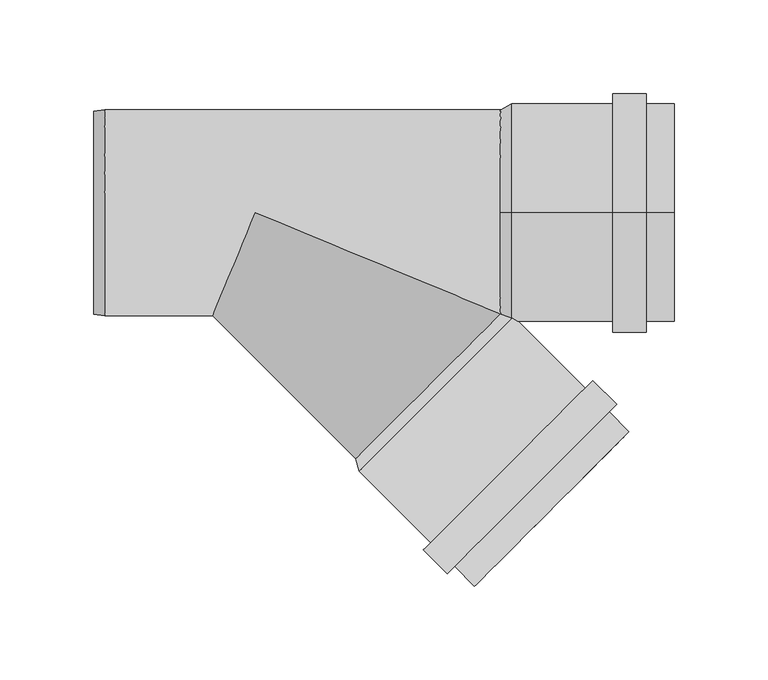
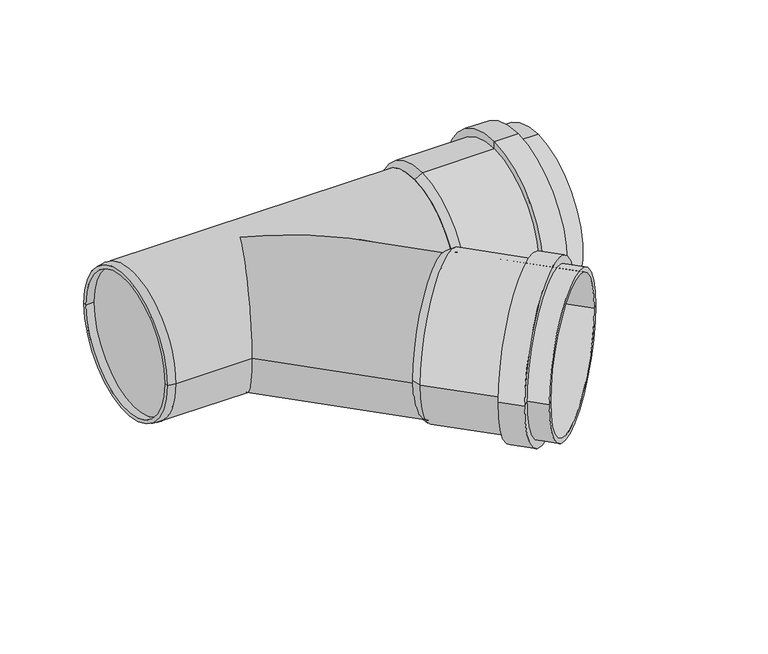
"""IFC4 building model written with IfcOpenShell, lengths in millimetres: pipe fitting geometry, OSMA_KG2000_PPKGEA : Odbočka 45°."""

from ifc_helpers import new_model, si_unit, frame, origin, place, context, project, spatial, polyline, circle_curve, ellipse_curve, source, transform, mapped, element, save
from ifc_brep_helpers import plane_surface, cylinder_surface, revolved_surface, advanced_brep


def pipe_fitting_f183f3e4(model_context):
    return source(origin(), model_context, "Body", "AdvancedBrep", [
        advanced_brep(
        [(135.764502, -57.9827561, 1.6299565), (57.9827561, -135.764502, 1.6299565), (119.501046, -197.282792, 1.6299565), (197.282792, -119.501046, 1.6299565), (176.3524312, -93.7623592, 1.6299565), (93.7623592, -176.3524312, 1.6299565), (55.578593, -138.168665, 1.6299565), (138.168665, -55.578593, 1.6299565), (180.3122292, -89.8025612, 1.6299565), (89.8025612, -180.3122292, 1.6299565), (193.0401513, -102.5304833, 1.6299565), (102.5304833, -193.0401513, 1.6299565), (189.0803533, -106.4902812, 1.6299565), (106.4902812, -189.0803533, 1.6299565), (199.686955, -117.096883, 1.6299565), (117.096883, -199.686955, 1.6299565), (129.1176982, -56.1442784, 1.6299565), (56.1442784, -129.1176982, 1.6299565), (131.5218613, -53.7401154, 1.6299565), (53.7401154, -131.5218613, 1.6299565)],
        [
            (0, 1, circle_curve(frame((96.873629, -96.873629, 1.6299565), z_axis=(-0.7071067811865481, 0.7071067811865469, 0.0), x_axis=(-0.7071067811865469, -0.7071067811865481, 0.0)), 55.0)),
            (1, 2),
            (2, 3, circle_curve(frame((158.391919, -158.391919, 1.6299565), z_axis=(0.7071067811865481, -0.7071067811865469, 0.0), x_axis=(-0.7071067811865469, -0.7071067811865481, 0.0)), 55.0)),
            (3, 0),
            (1, 0, circle_curve(frame((96.873629, -96.873629, 1.6299565), z_axis=(-0.7071067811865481, 0.7071067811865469, 0.0), x_axis=(-0.7071067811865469, -0.7071067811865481, 0.0)), 55.0)),
            (3, 2, circle_curve(frame((158.391919, -158.391919, 1.6299565), z_axis=(0.7071067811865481, -0.7071067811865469, 0.0), x_axis=(-0.7071067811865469, -0.7071067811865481, 0.0)), 55.0)),
            (4, 5, circle_curve(frame((135.0573952, -135.0573952, 1.6299565), z_axis=(-0.7071067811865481, 0.7071067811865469, 0.0), x_axis=(-0.7071067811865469, -0.7071067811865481, 0.0)), 58.4)),
            (5, 6),
            (6, 7, circle_curve(frame((96.873629, -96.873629, 1.6299565), z_axis=(0.7071067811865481, -0.7071067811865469, 0.0), x_axis=(-0.7071067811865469, -0.7071067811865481, 0.0)), 58.4)),
            (7, 4),
            (5, 4, circle_curve(frame((135.0573952, -135.0573952, 1.6299565), z_axis=(-0.7071067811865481, 0.7071067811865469, 0.0), x_axis=(-0.7071067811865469, -0.7071067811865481, 0.0)), 58.4)),
            (7, 6, circle_curve(frame((96.873629, -96.873629, 1.6299565), z_axis=(0.7071067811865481, -0.7071067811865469, 0.0), x_axis=(-0.7071067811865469, -0.7071067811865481, 0.0)), 58.4)),
            (8, 9, circle_curve(frame((135.0573952, -135.0573952, 1.6299565), z_axis=(-0.7071067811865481, 0.7071067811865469, 0.0), x_axis=(-0.7071067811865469, -0.7071067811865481, 0.0)), 64.0)),
            (9, 5),
            (4, 8),
            (9, 8, circle_curve(frame((135.0573952, -135.0573952, 1.6299565), z_axis=(-0.7071067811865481, 0.7071067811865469, 0.0), x_axis=(-0.7071067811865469, -0.7071067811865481, 0.0)), 64.0)),
            (10, 11, circle_curve(frame((147.7853173, -147.7853173, 1.6299565), z_axis=(-0.7071067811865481, 0.7071067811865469, 0.0), x_axis=(-0.7071067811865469, -0.7071067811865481, 0.0)), 64.0)),
            (11, 9),
            (8, 10),
            (11, 10, circle_curve(frame((147.7853173, -147.7853173, 1.6299565), z_axis=(-0.7071067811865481, 0.7071067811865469, 0.0), x_axis=(-0.7071067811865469, -0.7071067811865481, 0.0)), 64.0)),
            (12, 13, circle_curve(frame((147.7853173, -147.7853173, 1.6299565), z_axis=(-0.7071067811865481, 0.7071067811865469, 0.0), x_axis=(-0.7071067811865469, -0.7071067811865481, 0.0)), 58.4)),
            (13, 11),
            (10, 12),
            (13, 12, circle_curve(frame((147.7853173, -147.7853173, 1.6299565), z_axis=(-0.7071067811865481, 0.7071067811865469, 0.0), x_axis=(-0.7071067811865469, -0.7071067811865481, 0.0)), 58.4)),
            (14, 15, circle_curve(frame((158.391919, -158.391919, 1.6299565), z_axis=(-0.7071067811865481, 0.7071067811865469, 0.0), x_axis=(-0.7071067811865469, -0.7071067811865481, 0.0)), 58.4)),
            (15, 13),
            (12, 14),
            (15, 14, circle_curve(frame((158.391919, -158.391919, 1.6299565), z_axis=(-0.7071067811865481, 0.7071067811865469, 0.0), x_axis=(-0.7071067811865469, -0.7071067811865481, 0.0)), 58.4)),
            (2, 15),
            (14, 3),
            (16, 17, circle_curve(frame((92.6309883, -92.6309883, 1.6299565), z_axis=(-0.7071067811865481, 0.7071067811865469, 0.0), x_axis=(-0.7071067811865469, -0.7071067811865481, 0.0)), 51.6)),
            (17, 1),
            (0, 16),
            (17, 16, circle_curve(frame((92.6309883, -92.6309883, 1.6299565), z_axis=(-0.7071067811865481, 0.7071067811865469, 0.0), x_axis=(-0.7071067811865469, -0.7071067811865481, 0.0)), 51.6)),
            (18, 19, circle_curve(frame((92.6309883, -92.6309883, 1.6299565), z_axis=(-0.7071067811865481, 0.7071067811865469, 0.0), x_axis=(-0.7071067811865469, -0.7071067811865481, 0.0)), 55.0)),
            (19, 17),
            (16, 18),
            (19, 18, circle_curve(frame((92.6309883, -92.6309883, 1.6299565), z_axis=(-0.7071067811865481, 0.7071067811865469, 0.0), x_axis=(-0.7071067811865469, -0.7071067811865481, 0.0)), 55.0)),
            (6, 19),
            (18, 7),
        ],
        [
            revolved_surface(polyline([(119.50104603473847, -197.28279196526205, 1.6299565), (57.98275603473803, -135.76450196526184, 1.6299565)]), (2045.995242, -2045.995242, 1.6299565), (0.7071067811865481, -0.7071067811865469, 0.0)),
            cylinder_surface(frame((2045.995242, -2045.995242, 1.6299565), z_axis=(0.7071067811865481, -0.7071067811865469, 0.0), x_axis=(-0.7071067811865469, -0.7071067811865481, 0.0)), 58.4),
            plane_surface(frame((135.0573952, -135.0573952, 1.6299565), z_axis=(-0.7071067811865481, 0.7071067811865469, 0.0), x_axis=(-0.7071067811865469, -0.7071067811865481, 0.0))),
            cylinder_surface(frame((2045.995242, -2045.995242, 1.6299565), z_axis=(0.7071067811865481, -0.7071067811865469, 0.0), x_axis=(-0.7071067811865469, -0.7071067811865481, 0.0)), 64.0),
            plane_surface(frame((147.7853173, -147.7853173, 1.6299565), z_axis=(0.7071067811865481, -0.7071067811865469, 0.0), x_axis=(-0.7071067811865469, -0.7071067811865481, 0.0))),
            plane_surface(frame((158.391919, -158.391919, 1.6299565), z_axis=(0.7071067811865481, -0.7071067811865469, 0.0), x_axis=(-0.7071067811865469, -0.7071067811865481, 0.0))),
            revolved_surface(polyline([(57.9827561, -135.764502, 1.6299565), (56.1442784, -129.1176982, 1.6299565)]), (2045.995242, -2045.995242, 1.6299565), (0.7071067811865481, -0.7071067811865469, 0.0)),
            plane_surface(frame((92.6309883, -92.6309883, 1.6299565), z_axis=(-0.7071067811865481, 0.7071067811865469, 0.0), x_axis=(-0.7071067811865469, -0.7071067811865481, 0.0))),
            revolved_surface(polyline([(53.7401154, -131.5218613, 1.6299565), (55.578593, -138.168665, 1.6299565)]), (2045.995242, -2045.995242, 1.6299565), (0.7071067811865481, -0.7071067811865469, 0.0)),
        ],
        [
            (0, [[1, 2, 3, 4]]),
            (0, [[5, -4, 6, -2]]),
            (1, [[7, 8, 9, 10]]),
            (1, [[11, -10, 12, -8]]),
            (2, [[13, 14, -7, 15]]),
            (2, [[16, -15, -11, -14]]),
            (3, [[17, 18, -13, 19]]),
            (3, [[20, -19, -16, -18]]),
            (4, [[21, 22, -17, 23]]),
            (4, [[24, -23, -20, -22]]),
            (1, [[25, 26, -21, 27]]),
            (1, [[28, -27, -24, -26]]),
            (5, [[-3, 29, -25, 30]]),
            (5, [[-6, -30, -28, -29]]),
            (6, [[31, 32, -1, 33]]),
            (6, [[34, -33, -5, -32]]),
            (7, [[35, 36, -31, 37]]),
            (7, [[38, -37, -34, -36]]),
            (8, [[-9, 39, -35, 40]]),
            (8, [[-12, -40, -38, -39]]),
        ],
    ),
        advanced_brep(
        [(137.0, 0.0, -55.0), (137.0, 0.0, 55.0), (224.0, 0.0, 55.0), (224.0, 0.0, -55.0), (191.0, 0.0, -58.4), (191.0, 0.0, 58.4), (137.0, 0.0, 58.4), (137.0, 0.0, -58.4), (191.0, 0.0, -64.0), (191.0, 0.0, 64.0), (209.0, 0.0, -64.0), (209.0, 0.0, 64.0), (209.0, 0.0, -58.4), (209.0, 0.0, 58.4), (224.0, 0.0, -58.4), (224.0, 0.0, 58.4), (131.0, 0.0, -51.6), (131.0, 0.0, 51.6), (131.0, 0.0, -55.0), (131.0, 0.0, 55.0)],
        [
            (0, 1, circle_curve(frame((137.0, 0.0, 0.0), z_axis=(-1.0, 0.0, 0.0), x_axis=(0.0, 0.0, 1.0)), 55.0)),
            (1, 2),
            (2, 3, circle_curve(frame((224.0, 0.0, 0.0), z_axis=(1.0, 0.0, 0.0), x_axis=(0.0, 0.0, 1.0)), 55.0)),
            (3, 0),
            (1, 0, circle_curve(frame((137.0, 0.0, 0.0), z_axis=(-1.0, 0.0, 0.0), x_axis=(0.0, 0.0, 1.0)), 55.0)),
            (3, 2, circle_curve(frame((224.0, 0.0, 0.0), z_axis=(1.0, 0.0, 0.0), x_axis=(0.0, 0.0, 1.0)), 55.0)),
            (4, 5, circle_curve(frame((191.0, 0.0, 0.0), z_axis=(-1.0, 0.0, 0.0), x_axis=(0.0, 0.0, 1.0)), 58.4)),
            (5, 6),
            (6, 7, circle_curve(frame((137.0, 0.0, 0.0), z_axis=(1.0, 0.0, 0.0), x_axis=(0.0, 0.0, 1.0)), 58.4)),
            (7, 4),
            (5, 4, circle_curve(frame((191.0, 0.0, 0.0), z_axis=(-1.0, 0.0, 0.0), x_axis=(0.0, 0.0, 1.0)), 58.4)),
            (7, 6, circle_curve(frame((137.0, 0.0, 0.0), z_axis=(1.0, 0.0, 0.0), x_axis=(0.0, 0.0, 1.0)), 58.4)),
            (8, 9, circle_curve(frame((191.0, 0.0, 0.0), z_axis=(-1.0, 0.0, 0.0), x_axis=(0.0, 0.0, 1.0)), 64.0)),
            (9, 5),
            (4, 8),
            (9, 8, circle_curve(frame((191.0, 0.0, 0.0), z_axis=(-1.0, 0.0, 0.0), x_axis=(0.0, 0.0, 1.0)), 64.0)),
            (10, 11, circle_curve(frame((209.0, 0.0, 0.0), z_axis=(-1.0, 0.0, 0.0), x_axis=(0.0, 0.0, 1.0)), 64.0)),
            (11, 9),
            (8, 10),
            (11, 10, circle_curve(frame((209.0, 0.0, 0.0), z_axis=(-1.0, 0.0, 0.0), x_axis=(0.0, 0.0, 1.0)), 64.0)),
            (12, 13, circle_curve(frame((209.0, 0.0, 0.0), z_axis=(-1.0, 0.0, 0.0), x_axis=(0.0, 0.0, 1.0)), 58.4)),
            (13, 11),
            (10, 12),
            (13, 12, circle_curve(frame((209.0, 0.0, 0.0), z_axis=(-1.0, 0.0, 0.0), x_axis=(0.0, 0.0, 1.0)), 58.4)),
            (14, 15, circle_curve(frame((224.0, 0.0, 0.0), z_axis=(-1.0, 0.0, 0.0), x_axis=(0.0, 0.0, 1.0)), 58.4)),
            (15, 13),
            (12, 14),
            (15, 14, circle_curve(frame((224.0, 0.0, 0.0), z_axis=(-1.0, 0.0, 0.0), x_axis=(0.0, 0.0, 1.0)), 58.4)),
            (2, 15),
            (14, 3),
            (16, 17, circle_curve(frame((131.0, 0.0, 0.0), z_axis=(-1.0, 0.0, 0.0), x_axis=(0.0, 0.0, 1.0)), 51.6)),
            (17, 1),
            (0, 16),
            (17, 16, circle_curve(frame((131.0, 0.0, 0.0), z_axis=(-1.0, 0.0, 0.0), x_axis=(0.0, 0.0, 1.0)), 51.6)),
            (18, 19, circle_curve(frame((131.0, 0.0, 0.0), z_axis=(-1.0, 0.0, 0.0), x_axis=(0.0, 0.0, 1.0)), 55.0)),
            (19, 17),
            (16, 18),
            (19, 18, circle_curve(frame((131.0, 0.0, 0.0), z_axis=(-1.0, 0.0, 0.0), x_axis=(0.0, 0.0, 1.0)), 55.0)),
            (6, 19),
            (18, 7),
        ],
        [
            revolved_surface(polyline([(224.0, 0.0, 55.0), (137.0, 0.0, 55.0)]), (2893.4742198, 0.0, 0.0), (1.0, 0.0, 0.0)),
            cylinder_surface(frame((2893.4742198, 0.0, 0.0), z_axis=(1.0, 0.0, 0.0), x_axis=(0.0, 0.0, 1.0)), 58.4),
            plane_surface(frame((191.0, 0.0, 0.0), z_axis=(-1.0, 0.0, 0.0), x_axis=(0.0, 0.0, 1.0))),
            cylinder_surface(frame((2893.4742198, 0.0, 0.0), z_axis=(1.0, 0.0, 0.0), x_axis=(0.0, 0.0, 1.0)), 64.0),
            plane_surface(frame((209.0, 0.0, 0.0), z_axis=(1.0, 0.0, 0.0), x_axis=(0.0, 0.0, 1.0))),
            plane_surface(frame((224.0, 0.0, 0.0), z_axis=(1.0, 0.0, 0.0), x_axis=(0.0, 0.0, 1.0))),
            revolved_surface(polyline([(137.0, 0.0, 55.0), (131.0, 0.0, 51.6)]), (2893.4742198, 0.0, 0.0), (1.0, 0.0, 0.0)),
            plane_surface(frame((131.0, 0.0, 0.0), z_axis=(-1.0, 0.0, 0.0), x_axis=(0.0, 0.0, 1.0))),
            revolved_surface(polyline([(131.0, 0.0, 55.0), (137.0, 0.0, 58.4)]), (2893.4742198, 0.0, 0.0), (1.0, 0.0, 0.0)),
        ],
        [
            (0, [[1, 2, 3, 4]]),
            (0, [[5, -4, 6, -2]]),
            (1, [[7, 8, 9, 10]]),
            (1, [[11, -10, 12, -8]]),
            (2, [[13, 14, -7, 15]]),
            (2, [[16, -15, -11, -14]]),
            (3, [[17, 18, -13, 19]]),
            (3, [[20, -19, -16, -18]]),
            (4, [[21, 22, -17, 23]]),
            (4, [[24, -23, -20, -22]]),
            (1, [[25, 26, -21, 27]]),
            (1, [[28, -27, -24, -26]]),
            (5, [[-3, 29, -25, 30]]),
            (5, [[-6, -30, -28, -29]]),
            (6, [[31, 32, -1, 33]]),
            (6, [[34, -33, -5, -32]]),
            (7, [[35, 36, -31, 37]]),
            (7, [[38, -37, -34, -36]]),
            (8, [[-9, 39, -35, 40]]),
            (8, [[-12, -40, -38, -39]]),
        ],
    ),
        advanced_brep(
        [(55.8614357, -133.6431816, 0.0), (133.6431816, -55.8614357, 0.0), (132.7817459, -55.0, 0.0), (0.0, 0.0, 55.0), (-22.7817459, -55.0, 0.0), (0.0, 0.0, -55.0), (-86.5, -51.6, 0.0), (-86.5, 51.6, 0.0), (-86.5, 54.209508, 0.0), (-86.5, -54.209508, 0.0), (-80.5, -51.6, 0.0), (-80.5, 51.6, 0.0), (-80.5, 55.0, 0.0), (-80.5, -55.0, 0.0), (134.0, 55.0, 0.0), (134.0, -55.0, 0.0)],
        [
            (0, 1, circle_curve(frame((94.7523087, -94.7523087, 0.0), z_axis=(0.7071067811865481, -0.7071067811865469, 0.0), x_axis=(0.7071067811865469, 0.7071067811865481, 0.0)), 55.0)),
            (1, 0, circle_curve(frame((94.7523087, -94.7523087, 0.0), z_axis=(0.7071067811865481, -0.7071067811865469, 0.0), x_axis=(0.7071067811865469, 0.7071067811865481, 0.0)), 55.0)),
            (1, 2),
            (2, 3, ellipse_curve(frame((0.0, 0.0, 0.0), z_axis=(-0.3826834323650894, -0.923879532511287, 0.0), x_axis=(-0.923879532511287, 0.38268343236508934, 0.0)), 143.7219261, 55.0)),
            (3, 4, ellipse_curve(frame((0.0, 0.0, 0.0), z_axis=(0.923879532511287, -0.3826834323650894, 0.0), x_axis=(0.38268343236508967, 0.9238795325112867, 0.0)), 59.531571, 55.0)),
            (4, 0),
            (4, 5, ellipse_curve(frame((0.0, 0.0, 0.0), z_axis=(0.923879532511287, -0.3826834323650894, 0.0), x_axis=(0.38268343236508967, 0.9238795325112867, 0.0)), 59.531571, 55.0)),
            (5, 2, ellipse_curve(frame((0.0, 0.0, 0.0), z_axis=(-0.3826834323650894, -0.923879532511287, 0.0), x_axis=(-0.923879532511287, 0.38268343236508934, 0.0)), 143.7219261, 55.0)),
            (6, 7, circle_curve(frame((-86.5, 0.0, 0.0), z_axis=(1.0, 0.0, 0.0), x_axis=(0.0, 1.0, 0.0)), 51.6)),
            (7, 8),
            (8, 9, circle_curve(frame((-86.5, 0.0, 0.0), z_axis=(-1.0, 0.0, 0.0), x_axis=(0.0, 1.0, 0.0)), 54.209508)),
            (9, 6),
            (7, 6, circle_curve(frame((-86.5, 0.0, 0.0), z_axis=(1.0, 0.0, 0.0), x_axis=(0.0, 1.0, 0.0)), 51.6)),
            (9, 8, circle_curve(frame((-86.5, 0.0, 0.0), z_axis=(-1.0, 0.0, 0.0), x_axis=(0.0, 1.0, 0.0)), 54.209508)),
            (6, 10),
            (10, 11, circle_curve(frame((-80.5, 0.0, 0.0), z_axis=(1.0, 0.0, 0.0), x_axis=(0.0, 1.0, 0.0)), 51.6)),
            (11, 7),
            (11, 10, circle_curve(frame((-80.5, 0.0, 0.0), z_axis=(1.0, 0.0, 0.0), x_axis=(0.0, 1.0, 0.0)), 51.6)),
            (8, 12),
            (12, 13, circle_curve(frame((-80.5, 0.0, 0.0), z_axis=(-1.0, 0.0, 0.0), x_axis=(0.0, 1.0, 0.0)), 55.0)),
            (13, 9),
            (13, 12, circle_curve(frame((-80.5, 0.0, 0.0), z_axis=(-1.0, 0.0, 0.0), x_axis=(0.0, 1.0, 0.0)), 55.0)),
            (14, 15, circle_curve(frame((134.0, 0.0, 0.0), z_axis=(1.0, 0.0, 0.0), x_axis=(0.0, -1.0, 0.0)), 55.0)),
            (15, 14, circle_curve(frame((134.0, 0.0, 0.0), z_axis=(1.0, 0.0, 0.0), x_axis=(0.0, -1.0, 0.0)), 55.0)),
            (14, 12),
            (13, 4),
            (2, 15),
        ],
        [
            plane_surface(frame((94.7523087, -94.7523087, 0.0), z_axis=(0.7071067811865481, -0.7071067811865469, 0.0), x_axis=(0.0, 0.0, 1.0))),
            cylinder_surface(frame((0.0, 0.0, 0.0), z_axis=(-0.7071067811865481, 0.7071067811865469, 0.0), x_axis=(0.7071067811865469, 0.7071067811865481, 0.0)), 55.0),
            plane_surface(frame((-86.5, 0.0, 0.0), z_axis=(-1.0, 0.0, 0.0), x_axis=(0.0, 1.0, 0.0))),
            revolved_surface(polyline([(-86.5, 51.6, 0.0), (-80.5, 51.6, 0.0)]), (2043.0, 0.0, 0.0), (-1.0, 0.0, 0.0)),
            revolved_surface(polyline([(-80.5, 55.0, 0.0), (-86.5, 54.209508, 0.0)]), (2043.0, 0.0, 0.0), (-1.0, 0.0, 0.0)),
            plane_surface(frame((134.0, 0.0, 0.0), z_axis=(1.0, 0.0, 0.0), x_axis=(0.0, 0.0, 1.0))),
            plane_surface(frame((-80.5, 0.0, 0.0), z_axis=(-1.0, 0.0, 0.0), x_axis=(0.0, 0.0, 1.0))),
            cylinder_surface(frame((134.0, 0.0, 0.0), z_axis=(1.0, 0.0, 0.0), x_axis=(0.0, -1.0, 0.0)), 55.0),
        ],
        [
            (0, [[1, 2]]),
            (1, [[-2, 3, 4, 5, 6]]),
            (1, [[-1, -6, 7, 8, -3]]),
            (2, [[9, 10, 11, 12]]),
            (2, [[-10, 13, -12, 14]]),
            (3, [[-9, 15, 16, 17]]),
            (3, [[-13, -17, 18, -15]]),
            (4, [[-11, 19, 20, 21]]),
            (4, [[-14, -21, 22, -19]]),
            (5, [[23, 24]]),
            (6, [[-16, -18]]),
            (7, [[-23, 25, -22, 26, -5, -4, 27]]),
            (7, [[-24, -27, -8, -7, -26, -20, -25]]),
        ],
    ),
    ])


if __name__ == "__main__":
    model = new_model("IFC4")
    model_context = context("Model", 3, world=origin())
    ifc_project = project(units=[si_unit("LENGTHUNIT", "METRE", prefix="MILLI")], contexts=[model_context])
    site = spatial("IfcSite", under=ifc_project)
    building = spatial("IfcBuilding", under=site)
    placement = place(None, origin())
    pipe_fitting_shape = pipe_fitting_f183f3e4(model_context)
    element("IfcPipeFitting", 1, ObjectType="OSMA_KG2000_PPKGEA : Odbočka 45°", at=placement, inside=building, context=model_context, shape_type="MappedRepresentation", body=[
        mapped(pipe_fitting_shape, transform((0.0, 0.0, 0.0), x_axis=(1.0, 0.0, 0.0), y_axis=(0.0, 1.0, 0.0), z_axis=(0.0, 0.0, 1.0))),
    ])
    save(model, "model.ifc")
